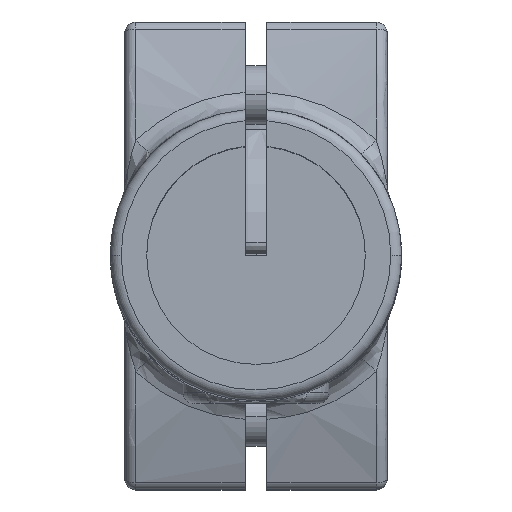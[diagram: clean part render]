
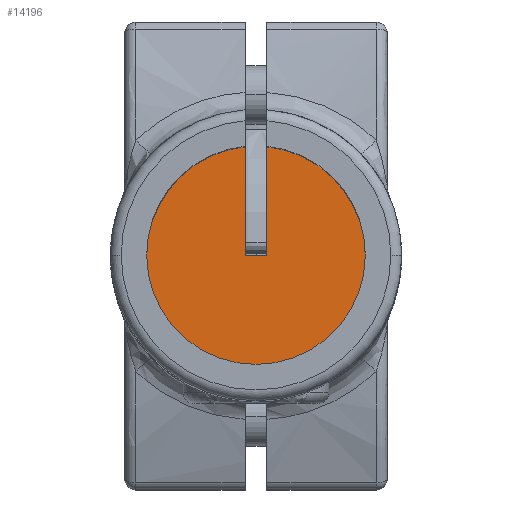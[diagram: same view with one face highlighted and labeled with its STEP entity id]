
A CAD part, top view. The second image highlights one B-rep face of the part: STEP entity #14196.
In plain terms, the highlighted planar face has unit normal (0, 0, 1) as drawn and (0, 0, -1) by its records, which use the part's own axes.
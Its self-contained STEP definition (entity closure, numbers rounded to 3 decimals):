
#354 = VECTOR ( 'NONE', #8819, 1000. ) ;
#1078 = DIRECTION ( 'NONE',  ( -1., 0., 0. ) ) ;
#1707 = AXIS2_PLACEMENT_3D ( 'NONE', #2476, #7091, #1078 ) ;
#1891 = CARTESIAN_POINT ( 'NONE',  ( 0., 0., 42.5 ) ) ;
#1921 = CARTESIAN_POINT ( 'NONE',  ( -1.5, 0., 42.5 ) ) ;
#2304 = ORIENTED_EDGE ( 'NONE', *, *, #7821, .F. ) ;
#2306 = EDGE_CURVE ( 'NONE', #3003, #19654, #13570, .T. ) ;
#2476 = CARTESIAN_POINT ( 'NONE',  ( 0., 0., 42.5 ) ) ;
#3003 = VERTEX_POINT ( 'NONE', #9614 ) ;
#3450 = CARTESIAN_POINT ( 'NONE',  ( -15., 0., 42.5 ) ) ;
#3627 = CIRCLE ( 'NONE', #15836, 15. ) ;
#3854 = LINE ( 'NONE', #13291, #17679 ) ;
#4470 = CARTESIAN_POINT ( 'NONE',  ( -1.5, 14.925, 42.5 ) ) ;
#4909 = AXIS2_PLACEMENT_3D ( 'NONE', #1891, #12600, #12889 ) ;
#4934 = CARTESIAN_POINT ( 'NONE',  ( -1.5, 32., 42.5 ) ) ;
#4961 = VERTEX_POINT ( 'NONE', #4470 ) ;
#5034 = DIRECTION ( 'NONE',  ( -1., 0., 0. ) ) ;
#6459 = DIRECTION ( 'NONE',  ( 0., -1., 0. ) ) ;
#6553 = LINE ( 'NONE', #4934, #17242 ) ;
#6558 = EDGE_CURVE ( 'NONE', #18526, #4961, #15391, .T. ) ;
#7091 = DIRECTION ( 'NONE',  ( 0., 0., -1. ) ) ;
#7120 = EDGE_CURVE ( 'NONE', #3003, #9982, #11630, .T. ) ;
#7553 = ORIENTED_EDGE ( 'NONE', *, *, #18489, .T. ) ;
#7821 = EDGE_CURVE ( 'NONE', #9982, #12691, #3854, .T. ) ;
#8819 = DIRECTION ( 'NONE',  ( 0., -1., 0. ) ) ;
#9614 = CARTESIAN_POINT ( 'NONE',  ( 1.5, 14.925, 42.5 ) ) ;
#9930 = CARTESIAN_POINT ( 'NONE',  ( 15., 0., 42.5 ) ) ;
#9978 = DIRECTION ( 'NONE',  ( -1., 0., 0. ) ) ;
#9982 = VERTEX_POINT ( 'NONE', #14276 ) ;
#10892 = AXIS2_PLACEMENT_3D ( 'NONE', #15008, #16954, #19861 ) ;
#11161 = ORIENTED_EDGE ( 'NONE', *, *, #6558, .T. ) ;
#11163 = CARTESIAN_POINT ( 'NONE',  ( 0., 0., 42.5 ) ) ;
#11630 = LINE ( 'NONE', #13529, #354 ) ;
#11795 = PLANE ( 'NONE',  #1707 ) ;
#12600 = DIRECTION ( 'NONE',  ( 0., 0., -1. ) ) ;
#12691 = VERTEX_POINT ( 'NONE', #1921 ) ;
#12867 = ORIENTED_EDGE ( 'NONE', *, *, #7120, .F. ) ;
#12889 = DIRECTION ( 'NONE',  ( -1., 0., 0. ) ) ;
#13291 = CARTESIAN_POINT ( 'NONE',  ( -1.5, 0., 42.5 ) ) ;
#13529 = CARTESIAN_POINT ( 'NONE',  ( 1.5, 32., 42.5 ) ) ;
#13570 = CIRCLE ( 'NONE', #4909, 15. ) ;
#14196 = ADVANCED_FACE ( 'NONE', ( #16126 ), #11795, .T. ) ;
#14276 = CARTESIAN_POINT ( 'NONE',  ( 1.5, 0., 42.5 ) ) ;
#14829 = EDGE_CURVE ( 'NONE', #19654, #18526, #3627, .T. ) ;
#15008 = CARTESIAN_POINT ( 'NONE',  ( 0., 0., 42.5 ) ) ;
#15391 = CIRCLE ( 'NONE', #10892, 15. ) ;
#15836 = AXIS2_PLACEMENT_3D ( 'NONE', #11163, #17120, #5034 ) ;
#16126 = FACE_OUTER_BOUND ( 'NONE', #19296, .T. ) ;
#16756 = ORIENTED_EDGE ( 'NONE', *, *, #14829, .T. ) ;
#16954 = DIRECTION ( 'NONE',  ( 0., 0., -1. ) ) ;
#17120 = DIRECTION ( 'NONE',  ( 0., 0., -1. ) ) ;
#17242 = VECTOR ( 'NONE', #6459, 1000. ) ;
#17679 = VECTOR ( 'NONE', #9978, 1000. ) ;
#17907 = ORIENTED_EDGE ( 'NONE', *, *, #2306, .T. ) ;
#18489 = EDGE_CURVE ( 'NONE', #4961, #12691, #6553, .T. ) ;
#18526 = VERTEX_POINT ( 'NONE', #3450 ) ;
#19296 = EDGE_LOOP ( 'NONE', ( #17907, #16756, #11161, #7553, #2304, #12867 ) ) ;
#19654 = VERTEX_POINT ( 'NONE', #9930 ) ;
#19861 = DIRECTION ( 'NONE',  ( -1., 0., 0. ) ) ;
